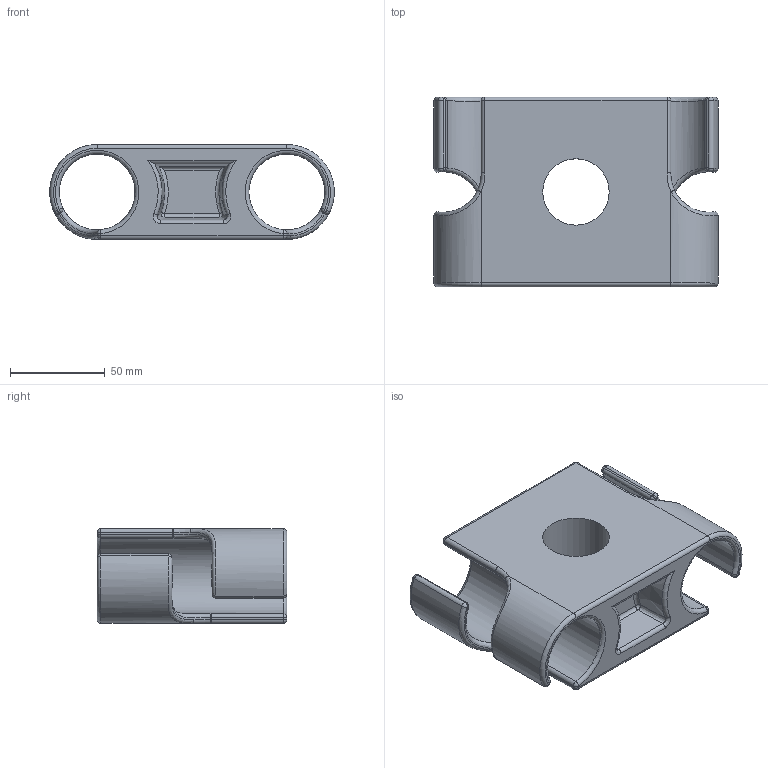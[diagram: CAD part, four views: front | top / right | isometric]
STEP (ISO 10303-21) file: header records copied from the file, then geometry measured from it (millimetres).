
FILE_DESCRIPTION(/* description */ (''),/* implementation_level */ '2;1');
FILE_NAME(/* name */ '2025 model mania.step',/* time_stamp */ '2026-07-13T21:26:54+01:00',/* author */ (''),/* organization */ (''),/* preprocessor_version */ 'ST-DEVELOPER v20.1',/* originating_system */ 'Autodesk Translation Framework v15.8.0.0',/* authorisation */ '');
FILE_SCHEMA (('AUTOMOTIVE_DESIGN { 1 0 10303 214 3 1 1 }'));
Length unit declared in the file: millimetre
Products named in the file (1): 2025 model mania
Bounding box: 149.96 x 100 x 50 mm (x, y, z)
Volume: 326797 mm3; surface area: 65284.1 mm2
Topology: 1 solids, 1 shells, 158 faces, 336 edges, 182 vertices
Faces by surface type: cylinder 54, sphere 38, bspline 24, torus 20, plane 18, cone 4
Full cylindrical faces by diameter (mm): 35 x1, 40 x1
Entity records: 5607 total; most frequent: CARTESIAN_POINT 2261, DIRECTION 734, ORIENTED_EDGE 672, EDGE_CURVE 336, AXIS2_PLACEMENT_3D 323, VERTEX_POINT 182, CIRCLE 180, EDGE_LOOP 162
